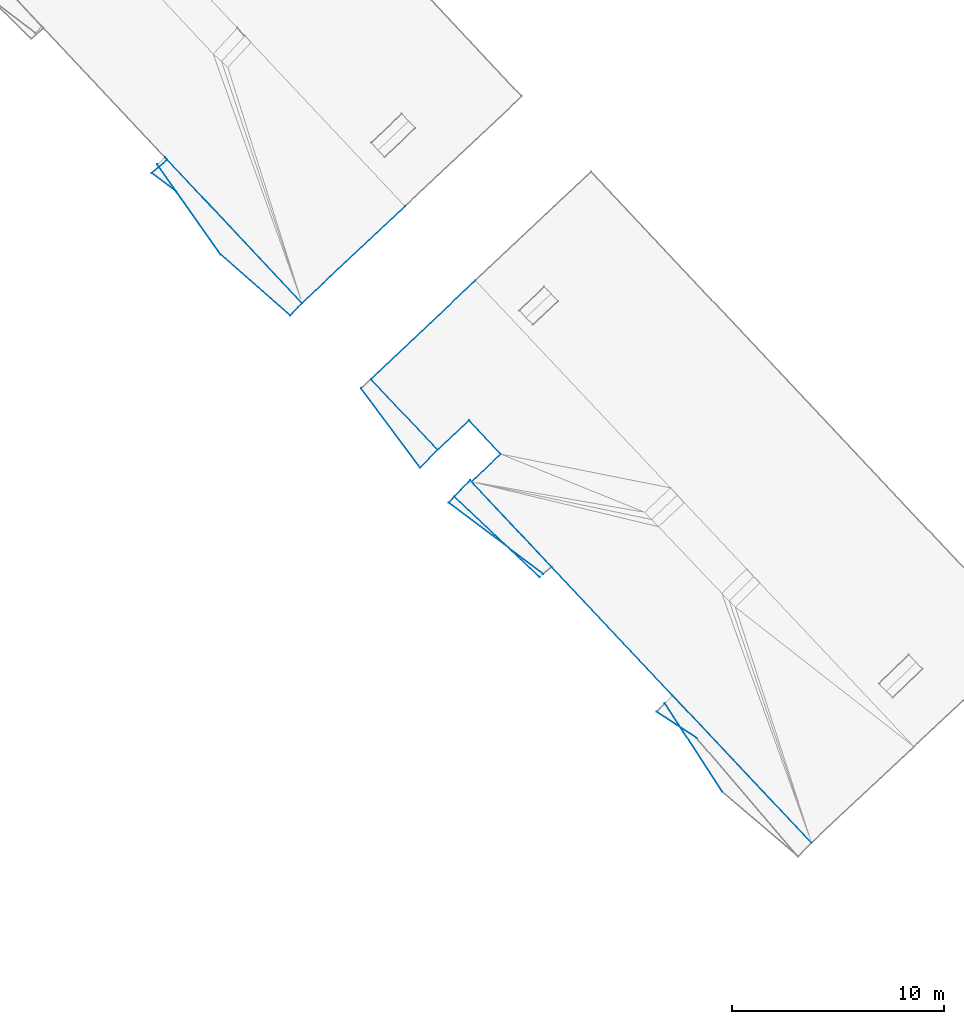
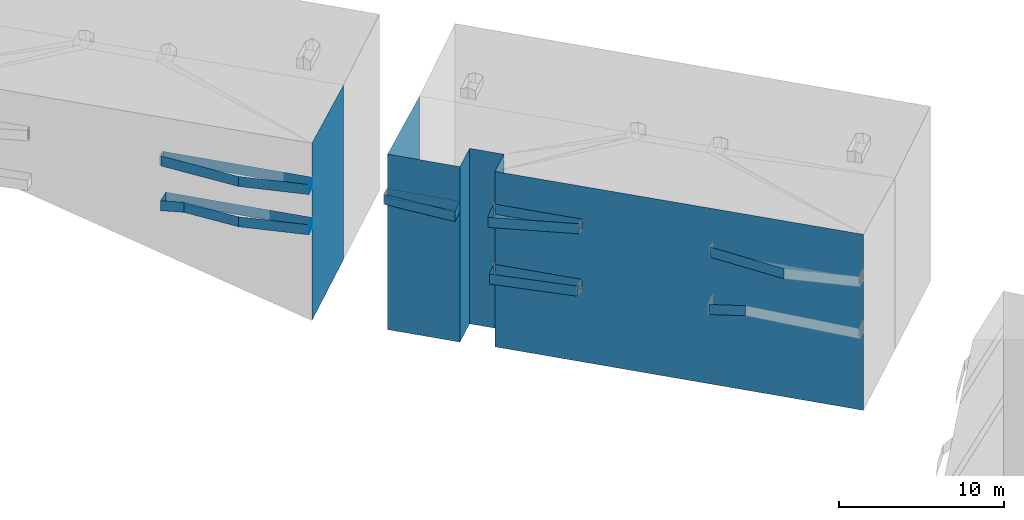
# Not in any storey, part 49 of 136: 48 walls.
"""IFC2X3 building model written with IfcOpenShell, lengths in metres."""

from ifc_helpers import new_model, entity, si_unit, converted_unit, frame, origin, place, context, subcontext, project, spatial, face_set, surface_model, element, save


model = new_model("IFC2X3")

# Units and contexts
model_context = context("Model", 3, precision=1e-05, world=origin())
body_context = subcontext(model_context, "Body", "Model", "MODEL_VIEW")
ifc_project = project(units=[converted_unit("PLANEANGLEUNIT", "DEGREE", entity("IfcRatioMeasure", 0.0174532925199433), si_unit("PLANEANGLEUNIT", "RADIAN"), dimensions=[0, 0, 0, 0, 0, 0, 0]), si_unit("AREAUNIT", "SQUARE_METRE"), si_unit("LENGTHUNIT", "METRE")], contexts=[model_context])

# Site, building
site_placement = place(None, origin())
site = spatial("IfcSite", under=ifc_project, at=site_placement, Name="_site", CompositionType="ELEMENT")
building_1_placement = place(site_placement, origin())
building_1 = spatial("IfcBuilding", under=site, at=building_1_placement, Name="_building", CompositionType="ELEMENT")

# Walls
for number, where, name in (
    (1, (0.0, 0.0, 0.0), "Wall"),
    (2, (0.0, 0.0, 0.0), "Wall"),
):
    element("IfcWall", number, at=place(building_1_placement, frame(where)), inside=building_1, Name=name, context=body_context, shape_type="SurfaceModel", body=[
        surface_model("IfcFaceBasedSurfaceModel", [(34.74, 89.67, 43.92), (32.86, 90.9, 43.92), (32.86, 90.9, 44.67), (34.74, 89.67, 44.67)], [face_set([[[0, 1, 2, 3]]])]),
    ])
wall_1_placement = place(building_1_placement, origin())
element("IfcWall", 3, at=wall_1_placement, inside=building_1, Name="Wall", context=body_context, shape_type="SurfaceModel", body=[
    surface_model("IfcFaceBasedSurfaceModel", [(19.39, 106.59, 47.72), (22.53, 103.25, 47.72), (22.53, 103.25, 48.47), (19.39, 106.59, 48.47)], [face_set([[[0, 1, 2, 3]]])]),
])
wall_2_placement = place(building_1_placement, origin())
element("IfcWall", 4, at=wall_2_placement, inside=building_1, Name="Wall", context=body_context, shape_type="SurfaceModel", body=[
    surface_model("IfcFaceBasedSurfaceModel", [(21.71, 102.42, 47.72), (18.92, 106.15, 47.72), (18.92, 106.15, 48.47), (21.71, 102.42, 48.47)], [face_set([[[0, 1, 2, 3]]])]),
])
wall_3_placement = place(building_1_placement, origin())
element("IfcWall", 5, at=wall_3_placement, inside=building_1, Name="Wall", context=body_context, shape_type="SurfaceModel", body=[
    surface_model("IfcFaceBasedSurfaceModel", [(22.53, 103.25, 47.72), (21.71, 102.42, 47.72), (21.71, 102.42, 48.47), (22.53, 103.25, 48.47)], [face_set([[[0, 1, 2, 3]]])]),
])
wall_4_placement = place(building_1_placement, origin())
element("IfcWall", 6, at=wall_4_placement, inside=building_1, Name="Wall", context=body_context, shape_type="SurfaceModel", body=[
    surface_model("IfcFaceBasedSurfaceModel", [(19.39, 106.59, 47.72), (22.53, 103.25, 47.72), (22.53, 103.25, 48.47), (19.39, 106.59, 48.47)], [face_set([[[0, 1, 2, 3]]])]),
])
wall_5_placement = place(building_1_placement, origin())
element("IfcWall", 7, at=wall_5_placement, inside=building_1, Name="Wall", context=body_context, shape_type="SurfaceModel", body=[
    surface_model("IfcFaceBasedSurfaceModel", [(21.71, 102.42, 47.72), (18.92, 106.15, 47.72), (18.92, 106.15, 48.47), (21.71, 102.42, 48.47)], [face_set([[[0, 1, 2, 3]]])]),
])
wall_6_placement = place(building_1_placement, origin())
element("IfcWall", 8, at=wall_6_placement, inside=building_1, Name="Wall", context=body_context, shape_type="SurfaceModel", body=[
    surface_model("IfcFaceBasedSurfaceModel", [(22.53, 103.25, 47.72), (21.71, 102.42, 47.72), (21.71, 102.42, 48.47), (22.53, 103.25, 48.47)], [face_set([[[0, 1, 2, 3]]])]),
])
wall_7_placement = place(building_1_placement, origin())
element("IfcWall", 9, at=wall_7_placement, inside=building_1, Name="Wall", context=body_context, shape_type="SurfaceModel", body=[
    surface_model("IfcFaceBasedSurfaceModel", [(27.33, 97.24, 43.37), (23.32, 101.04, 43.37), (23.32, 101.04, 44.12), (27.33, 97.24, 44.12)], [face_set([[[0, 1, 2, 3]]])]),
])
wall_8_placement = place(building_1_placement, origin())
element("IfcWall", 10, at=wall_8_placement, inside=building_1, Name="Wall", context=body_context, shape_type="SurfaceModel", body=[
    surface_model("IfcFaceBasedSurfaceModel", [(24.13, 101.75, 43.37), (27.9, 97.74, 43.37), (27.9, 97.74, 44.12), (24.13, 101.75, 44.12)], [face_set([[[0, 1, 2, 3]]])]),
])
wall_9_placement = place(building_1_placement, origin())
element("IfcWall", 11, at=wall_9_placement, inside=building_1, Name="Wall", context=body_context, shape_type="SurfaceModel", body=[
    surface_model("IfcFaceBasedSurfaceModel", [(23.32, 101.04, 43.37), (24.07, 101.83, 43.37), (24.07, 101.83, 44.12), (23.32, 101.04, 44.12)], [face_set([[[0, 1, 2, 3]]])]),
])
wall_10_placement = place(building_1_placement, origin())
element("IfcWall", 12, at=wall_10_placement, inside=building_1, Name="Wall", context=body_context, shape_type="SurfaceModel", body=[
    surface_model("IfcFaceBasedSurfaceModel", [(27.33, 97.24, 43.37), (23.32, 101.04, 43.37), (23.32, 101.04, 44.12), (27.33, 97.24, 44.12)], [face_set([[[0, 1, 2, 3]]])]),
])
for number, where, name in (
    (13, (0.0, 0.0, 0.0), "Wall"),
    (14, (0.0, 0.0, 0.0), "Wall"),
):
    element("IfcWall", number, at=place(building_1_placement, frame(where)), inside=building_1, Name=name, context=body_context, shape_type="SurfaceModel", body=[
        surface_model("IfcFaceBasedSurfaceModel", [(35.95, 87.13, 47.78), (33.24, 91.32, 47.78), (33.24, 91.32, 48.53), (35.95, 87.13, 48.53)], [face_set([[[0, 1, 2, 3]]])]),
    ])
wall_11_placement = place(building_1_placement, origin())
element("IfcWall", 15, at=wall_11_placement, inside=building_1, Name="Wall", context=body_context, shape_type="SurfaceModel", body=[
    surface_model("IfcFaceBasedSurfaceModel", [(23.32, 101.04, 43.37), (24.07, 101.83, 43.37), (24.07, 101.83, 44.12), (23.32, 101.04, 44.12)], [face_set([[[0, 1, 2, 3]]])]),
])
wall_12_placement = place(building_1_placement, origin())
element("IfcWall", 16, at=wall_12_placement, inside=building_1, Name="Wall", context=body_context, shape_type="SurfaceModel", body=[
    surface_model("IfcFaceBasedSurfaceModel", [(22.53, 103.25, 51.02), (19.39, 106.59, 51.02), (19.39, 106.59, 38.0), (22.53, 103.25, 38.0)], [face_set([[[0, 1, 2, 3]]])]),
])
wall_13_placement = place(building_1_placement, origin())
element("IfcWall", 17, at=wall_13_placement, inside=building_1, Name="Wall", context=body_context, shape_type="SurfaceModel", body=[
    surface_model("IfcFaceBasedSurfaceModel", [(25.51, 103.05, 51.02), (24.01, 104.64, 51.02), (24.01, 104.64, 38.0), (25.51, 103.05, 38.0)], [face_set([[[0, 1, 2, 3]]])]),
])
wall_14_placement = place(building_1_placement, origin())
element("IfcWall", 18, at=wall_14_placement, inside=building_1, Name="Wall", context=body_context, shape_type="SurfaceModel", body=[
    surface_model("IfcFaceBasedSurfaceModel", [(40.15, 84.73, 51.06), (24.13, 101.75, 51.02), (24.13, 101.75, 38.0), (40.15, 84.73, 38.0)], [face_set([[[0, 1, 2, 3]]])]),
])
wall_15_placement = place(building_1_placement, origin())
element("IfcWall", 19, at=wall_15_placement, inside=building_1, Name="Wall", context=body_context, shape_type="SurfaceModel", body=[
    surface_model("IfcFaceBasedSurfaceModel", [(24.13, 101.75, 43.37), (27.9, 97.74, 43.37), (27.9, 97.74, 44.12), (24.13, 101.75, 44.12)], [face_set([[[0, 1, 2, 3]]])]),
])
wall_16_placement = place(building_1_placement, origin())
element("IfcWall", 20, at=wall_16_placement, inside=building_1, Name="Wall", context=body_context, shape_type="SurfaceModel", body=[
    surface_model("IfcFaceBasedSurfaceModel", [(24.13, 101.75, 47.84), (27.9, 97.74, 47.84), (27.9, 97.74, 48.59), (24.13, 101.75, 48.59)], [face_set([[[0, 1, 2, 3]]])]),
])
wall_17_placement = place(building_1_placement, origin())
element("IfcWall", 21, at=wall_17_placement, inside=building_1, Name="Wall", context=body_context, shape_type="SurfaceModel", body=[
    surface_model("IfcFaceBasedSurfaceModel", [(23.05, 100.76, 47.84), (24.07, 101.83, 47.84), (24.07, 101.83, 48.59), (23.05, 100.76, 48.59)], [face_set([[[0, 1, 2, 3]]])]),
])
wall_18_placement = place(building_1_placement, origin())
element("IfcWall", 22, at=wall_18_placement, inside=building_1, Name="Wall", context=body_context, shape_type="SurfaceModel", body=[
    surface_model("IfcFaceBasedSurfaceModel", [(27.51, 97.4, 47.84), (23.05, 100.76, 47.84), (23.05, 100.76, 48.59), (27.51, 97.4, 48.59)], [face_set([[[0, 1, 2, 3]]])]),
])
wall_19_placement = place(building_1_placement, origin())
element("IfcWall", 23, at=wall_19_placement, inside=building_1, Name="Wall", context=body_context, shape_type="SurfaceModel", body=[
    surface_model("IfcFaceBasedSurfaceModel", [(24.13, 101.75, 47.84), (27.9, 97.74, 47.84), (27.9, 97.74, 48.59), (24.13, 101.75, 48.59)], [face_set([[[0, 1, 2, 3]]])]),
])
wall_20_placement = place(building_1_placement, origin())
element("IfcWall", 24, at=wall_20_placement, inside=building_1, Name="Wall", context=body_context, shape_type="SurfaceModel", body=[
    surface_model("IfcFaceBasedSurfaceModel", [(23.05, 100.76, 47.84), (24.07, 101.83, 47.84), (24.07, 101.83, 48.59), (23.05, 100.76, 48.59)], [face_set([[[0, 1, 2, 3]]])]),
])
wall_21_placement = place(building_1_placement, origin())
element("IfcWall", 25, at=wall_21_placement, inside=building_1, Name="Wall", context=body_context, shape_type="SurfaceModel", body=[
    surface_model("IfcFaceBasedSurfaceModel", [(27.51, 97.4, 47.84), (23.05, 100.76, 47.84), (23.05, 100.76, 48.59), (27.51, 97.4, 48.59)], [face_set([[[0, 1, 2, 3]]])]),
])
wall_22_placement = place(building_1_placement, origin())
element("IfcWall", 26, at=wall_22_placement, inside=building_1, Name="Wall", context=body_context, shape_type="SurfaceModel", body=[
    surface_model("IfcFaceBasedSurfaceModel", [(24.01, 104.64, 51.02), (22.53, 103.25, 51.02), (22.53, 103.25, 38.0), (24.01, 104.64, 38.0)], [face_set([[[0, 1, 2, 3]]])]),
])
wall_23_placement = place(building_1_placement, origin())
element("IfcWall", 27, at=wall_23_placement, inside=building_1, Name="Wall", context=body_context, shape_type="SurfaceModel", body=[
    surface_model("IfcFaceBasedSurfaceModel", [(19.39, 106.59, 51.02), (24.31, 111.23, 50.8), (24.31, 111.23, 37.968), (19.39, 106.59, 38.0)], [face_set([[[0, 1, 2, 3]]])]),
])
wall_24_placement = place(building_1_placement, origin())
element("IfcWall", 28, at=wall_24_placement, inside=building_1, Name="Wall", context=body_context, shape_type="SurfaceModel", body=[
    surface_model("IfcFaceBasedSurfaceModel", [(24.13, 101.75, 51.02), (25.51, 103.05, 51.02), (25.51, 103.05, 38.0), (24.13, 101.75, 38.0)], [face_set([[[0, 1, 2, 3]]])]),
])

# Building
building_2_placement = place(site_placement, origin())
building_2 = spatial("IfcBuilding", under=site, at=building_2_placement, Name="_building", CompositionType="ELEMENT")

# Walls
wall_25_placement = place(building_2_placement, origin())
element("IfcWall", 29, at=wall_25_placement, inside=building_2, Name="Wall", context=body_context, shape_type="SurfaceModel", body=[
    surface_model("IfcFaceBasedSurfaceModel", [(16.14, 110.17, 44.55), (15.58, 109.58, 44.55), (15.58, 109.58, 45.3), (16.14, 110.17, 45.3)], [face_set([[[0, 1, 2, 3]]])]),
])
wall_26_placement = place(building_2_placement, origin())
element("IfcWall", 30, at=wall_26_placement, inside=building_2, Name="Wall", context=body_context, shape_type="SurfaceModel", body=[
    surface_model("IfcFaceBasedSurfaceModel", [(9.79, 116.93, 44.55), (16.14, 110.17, 44.55), (16.14, 110.17, 45.3), (9.79, 116.93, 45.3)], [face_set([[[0, 1, 2, 3]]])]),
])
wall_27_placement = place(building_2_placement, origin())
element("IfcWall", 31, at=wall_27_placement, inside=building_2, Name="Wall", context=body_context, shape_type="SurfaceModel", body=[
    surface_model("IfcFaceBasedSurfaceModel", [(9.06, 116.3, 44.55), (9.79, 116.93, 44.55), (9.79, 116.93, 45.3), (9.06, 116.3, 45.3)], [face_set([[[0, 1, 2, 3]]])]),
])
wall_28_placement = place(building_2_placement, origin())
element("IfcWall", 32, at=wall_28_placement, inside=building_2, Name="Wall", context=body_context, shape_type="SurfaceModel", body=[
    surface_model("IfcFaceBasedSurfaceModel", [(12.31, 112.46, 44.55), (10.21, 115.43, 44.55), (10.21, 115.43, 45.3), (12.31, 112.46, 45.3)], [face_set([[[0, 1, 2, 3]]])]),
])
wall_29_placement = place(building_2_placement, origin())
element("IfcWall", 33, at=wall_29_placement, inside=building_2, Name="Wall", context=body_context, shape_type="SurfaceModel", body=[
    surface_model("IfcFaceBasedSurfaceModel", [(15.58, 109.58, 44.55), (12.31, 112.46, 44.55), (12.31, 112.46, 45.3), (15.58, 109.58, 45.3)], [face_set([[[0, 1, 2, 3]]])]),
])
wall_30_placement = place(building_2_placement, origin())
element("IfcWall", 34, at=wall_30_placement, inside=building_2, Name="Wall", context=body_context, shape_type="SurfaceModel", body=[
    surface_model("IfcFaceBasedSurfaceModel", [(16.14, 110.17, 44.55), (15.58, 109.58, 44.55), (15.58, 109.58, 45.3), (16.14, 110.17, 45.3)], [face_set([[[0, 1, 2, 3]]])]),
])
wall_31_placement = place(building_2_placement, origin())
element("IfcWall", 35, at=wall_31_placement, inside=building_2, Name="Wall", context=body_context, shape_type="SurfaceModel", body=[
    surface_model("IfcFaceBasedSurfaceModel", [(9.79, 116.93, 44.55), (16.14, 110.17, 44.55), (16.14, 110.17, 45.3), (9.79, 116.93, 45.3)], [face_set([[[0, 1, 2, 3]]])]),
])
wall_32_placement = place(building_2_placement, origin())
element("IfcWall", 36, at=wall_32_placement, inside=building_2, Name="Wall", context=body_context, shape_type="SurfaceModel", body=[
    surface_model("IfcFaceBasedSurfaceModel", [(20.99, 114.73, 50.65), (16.14, 110.17, 50.8), (16.14, 110.17, 37.638), (20.99, 114.73, 37.701)], [face_set([[[0, 1, 2, 3]]])]),
])
wall_33_placement = place(building_2_placement, origin())
element("IfcWall", 37, at=wall_33_placement, inside=building_2, Name="Wall", context=body_context, shape_type="SurfaceModel", body=[
    surface_model("IfcFaceBasedSurfaceModel", [(15.58, 109.58, 44.55), (12.31, 112.46, 44.55), (12.31, 112.46, 45.3), (15.58, 109.58, 45.3)], [face_set([[[0, 1, 2, 3]]])]),
])
wall_34_placement = place(building_2_placement, origin())
element("IfcWall", 38, at=wall_34_placement, inside=building_2, Name="Wall", context=body_context, shape_type="SurfaceModel", body=[
    surface_model("IfcFaceBasedSurfaceModel", [(9.06, 116.3, 44.55), (9.79, 116.93, 44.55), (9.79, 116.93, 45.3), (9.06, 116.3, 45.3)], [face_set([[[0, 1, 2, 3]]])]),
])
for number, where, name in (
    (39, (0.0, 0.0, 0.0), "Wall"),
    (40, (0.0, 0.0, 0.0), "Wall"),
):
    element("IfcWall", number, at=place(building_2_placement, frame(where)), inside=building_2, Name=name, context=body_context, shape_type="SurfaceModel", body=[
        surface_model("IfcFaceBasedSurfaceModel", [(10.21, 115.43, 44.55), (9.06, 116.3, 44.55), (9.06, 116.3, 45.3), (10.21, 115.43, 45.3)], [face_set([[[0, 1, 2, 3]]])]),
    ])
wall_35_placement = place(building_2_placement, origin())
element("IfcWall", 41, at=wall_35_placement, inside=building_2, Name="Wall", context=body_context, shape_type="SurfaceModel", body=[
    surface_model("IfcFaceBasedSurfaceModel", [(9.68, 117.05, 47.54), (16.14, 110.17, 47.54), (16.14, 110.17, 48.29), (9.68, 117.05, 48.29)], [face_set([[[0, 1, 2, 3]]])]),
])
wall_36_placement = place(building_2_placement, origin())
element("IfcWall", 42, at=wall_36_placement, inside=building_2, Name="Wall", context=body_context, shape_type="SurfaceModel", body=[
    surface_model("IfcFaceBasedSurfaceModel", [(12.31, 112.46, 47.54), (9.31, 116.71, 47.54), (9.31, 116.71, 48.29), (12.31, 112.46, 48.29)], [face_set([[[0, 1, 2, 3]]])]),
])
wall_37_placement = place(building_2_placement, origin())
element("IfcWall", 43, at=wall_37_placement, inside=building_2, Name="Wall", context=body_context, shape_type="SurfaceModel", body=[
    surface_model("IfcFaceBasedSurfaceModel", [(15.58, 109.58, 47.54), (12.31, 112.46, 47.54), (12.31, 112.46, 48.29), (15.58, 109.58, 48.29)], [face_set([[[0, 1, 2, 3]]])]),
])
wall_38_placement = place(building_2_placement, origin())
element("IfcWall", 44, at=wall_38_placement, inside=building_2, Name="Wall", context=body_context, shape_type="SurfaceModel", body=[
    surface_model("IfcFaceBasedSurfaceModel", [(16.14, 110.17, 47.54), (15.58, 109.58, 47.54), (15.58, 109.58, 48.29), (16.14, 110.17, 48.29)], [face_set([[[0, 1, 2, 3]]])]),
])
wall_39_placement = place(building_2_placement, origin())
element("IfcWall", 45, at=wall_39_placement, inside=building_2, Name="Wall", context=body_context, shape_type="SurfaceModel", body=[
    surface_model("IfcFaceBasedSurfaceModel", [(9.68, 117.05, 47.54), (16.14, 110.17, 47.54), (16.14, 110.17, 48.29), (9.68, 117.05, 48.29)], [face_set([[[0, 1, 2, 3]]])]),
])
wall_40_placement = place(building_2_placement, origin())
element("IfcWall", 46, at=wall_40_placement, inside=building_2, Name="Wall", context=body_context, shape_type="SurfaceModel", body=[
    surface_model("IfcFaceBasedSurfaceModel", [(12.31, 112.46, 47.54), (9.31, 116.71, 47.54), (9.31, 116.71, 48.29), (12.31, 112.46, 48.29)], [face_set([[[0, 1, 2, 3]]])]),
])
wall_41_placement = place(building_2_placement, origin())
element("IfcWall", 47, at=wall_41_placement, inside=building_2, Name="Wall", context=body_context, shape_type="SurfaceModel", body=[
    surface_model("IfcFaceBasedSurfaceModel", [(15.58, 109.58, 47.54), (12.31, 112.46, 47.54), (12.31, 112.46, 48.29), (15.58, 109.58, 48.29)], [face_set([[[0, 1, 2, 3]]])]),
])
wall_42_placement = place(building_2_placement, origin())
element("IfcWall", 48, at=wall_42_placement, inside=building_2, Name="Wall", context=body_context, shape_type="SurfaceModel", body=[
    surface_model("IfcFaceBasedSurfaceModel", [(16.14, 110.17, 47.54), (15.58, 109.58, 47.54), (15.58, 109.58, 48.29), (16.14, 110.17, 48.29)], [face_set([[[0, 1, 2, 3]]])]),
])

save(model, "model.ifc")
